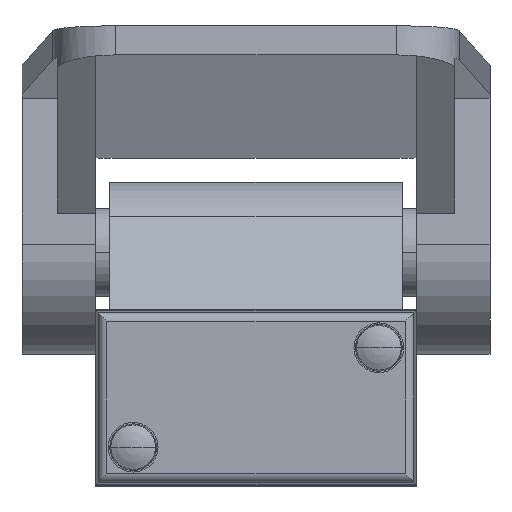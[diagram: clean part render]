
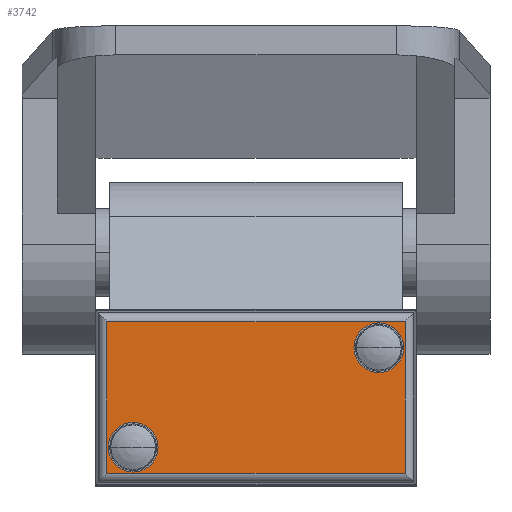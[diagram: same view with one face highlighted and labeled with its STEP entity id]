
A CAD part, top view. The second image highlights one B-rep face of the part: STEP entity #3742.
In plain terms, the highlighted planar face has unit normal (0, 0, 1) as drawn and (0, -1, 0) by its records, which use the part's own axes.
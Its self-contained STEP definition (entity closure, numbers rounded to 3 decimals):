
#1342=CARTESIAN_POINT('',(8.5,-50.3,-48.5));
#1343=DIRECTION('',(0.,1.,0.));
#1344=DIRECTION('',(0.,0.,-1.));
#1345=AXIS2_PLACEMENT_3D('',#1342,#1343,#1344);
#1347=CARTESIAN_POINT('',(8.5,-50.3,-48.5));
#1348=DIRECTION('',(0.,1.,0.));
#1349=DIRECTION('',(0.,0.,1.));
#1350=AXIS2_PLACEMENT_3D('',#1347,#1348,#1349);
#1352=CARTESIAN_POINT('',(-8.5,-50.3,-6.5));
#1353=DIRECTION('',(0.,1.,0.));
#1354=DIRECTION('',(0.,0.,-1.));
#1355=AXIS2_PLACEMENT_3D('',#1352,#1353,#1354);
#1357=CARTESIAN_POINT('',(-8.5,-50.3,-6.5));
#1358=DIRECTION('',(0.,1.,0.));
#1359=DIRECTION('',(0.,0.,1.));
#1360=AXIS2_PLACEMENT_3D('',#1357,#1358,#1359);
#1362=DIRECTION('',(0.,0.,1.));
#1363=VECTOR('',#1362,50.978);
#1364=CARTESIAN_POINT('',(12.989,-50.3,-52.989));
#1365=LINE('',#1364,#1363);
#1366=DIRECTION('',(1.,0.,0.));
#1367=VECTOR('',#1366,25.978);
#1368=CARTESIAN_POINT('',(-12.989,-50.3,-52.989));
#1369=LINE('',#1368,#1367);
#1370=DIRECTION('',(0.,0.,-1.));
#1371=VECTOR('',#1370,50.978);
#1372=CARTESIAN_POINT('',(-12.989,-50.3,-2.011));
#1373=LINE('',#1372,#1371);
#1374=DIRECTION('',(-1.,0.,0.));
#1375=VECTOR('',#1374,25.978);
#1376=CARTESIAN_POINT('',(12.989,-50.3,-2.011));
#1377=LINE('',#1376,#1375);
#1686=CARTESIAN_POINT('',(12.989,-50.3,-52.989));
#1687=CARTESIAN_POINT('',(12.989,-50.3,-2.011));
#1688=VERTEX_POINT('',#1686);
#1689=VERTEX_POINT('',#1687);
#1692=CARTESIAN_POINT('',(-12.989,-50.3,-2.011));
#1693=VERTEX_POINT('',#1692);
#1694=CARTESIAN_POINT('',(-12.989,-50.3,-52.989));
#1695=VERTEX_POINT('',#1694);
#1712=CARTESIAN_POINT('',(8.5,-50.3,-52.75));
#1713=CARTESIAN_POINT('',(8.5,-50.3,-44.25));
#1714=VERTEX_POINT('',#1712);
#1715=VERTEX_POINT('',#1713);
#1730=CARTESIAN_POINT('',(-8.5,-50.3,-10.75));
#1731=CARTESIAN_POINT('',(-8.5,-50.3,-2.25));
#1732=VERTEX_POINT('',#1730);
#1733=VERTEX_POINT('',#1731);
#3717=CARTESIAN_POINT('',(0.,-50.3,0.));
#3718=DIRECTION('',(0.,-1.,0.));
#3719=DIRECTION('',(1.,0.,0.));
#3720=AXIS2_PLACEMENT_3D('',#3717,#3718,#3719);
#3721=PLANE('',#3720);
#3723=ORIENTED_EDGE('',*,*,#3722,.F.);
#3724=ORIENTED_EDGE('',*,*,#3695,.F.);
#3725=ORIENTED_EDGE('',*,*,#3707,.F.);
#3727=ORIENTED_EDGE('',*,*,#3726,.F.);
#3728=EDGE_LOOP('',(#3723,#3724,#3725,#3727));
#3729=FACE_OUTER_BOUND('',#3728,.F.);
#3731=ORIENTED_EDGE('',*,*,#3730,.F.);
#3733=ORIENTED_EDGE('',*,*,#3732,.F.);
#3734=EDGE_LOOP('',(#3731,#3733));
#3735=FACE_BOUND('',#3734,.F.);
#3737=ORIENTED_EDGE('',*,*,#3736,.F.);
#3739=ORIENTED_EDGE('',*,*,#3738,.F.);
#3740=EDGE_LOOP('',(#3737,#3739));
#3741=FACE_BOUND('',#3740,.F.);
#3742=ADVANCED_FACE('',(#3729,#3735,#3741),#3721,.T.);
#1346=CIRCLE('',#1345,4.25);
#1351=CIRCLE('',#1350,4.25);
#1356=CIRCLE('',#1355,4.25);
#1361=CIRCLE('',#1360,4.25);
#3695=EDGE_CURVE('',#1695,#1688,#1369,.T.);
#3707=EDGE_CURVE('',#1693,#1695,#1373,.T.);
#3722=EDGE_CURVE('',#1688,#1689,#1365,.T.);
#3726=EDGE_CURVE('',#1689,#1693,#1377,.T.);
#3730=EDGE_CURVE('',#1732,#1733,#1356,.T.);
#3732=EDGE_CURVE('',#1733,#1732,#1361,.T.);
#3736=EDGE_CURVE('',#1714,#1715,#1346,.T.);
#3738=EDGE_CURVE('',#1715,#1714,#1351,.T.);
